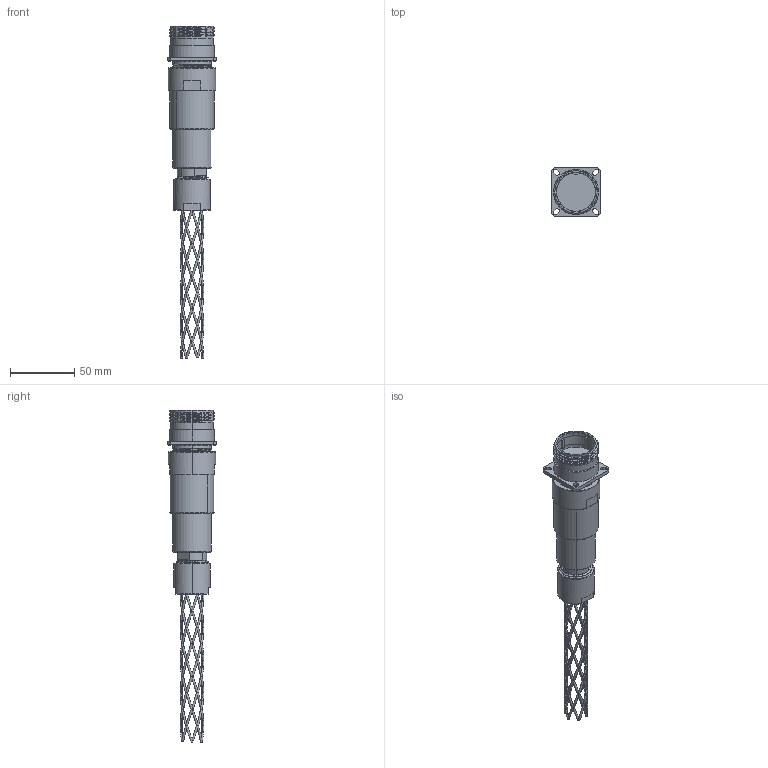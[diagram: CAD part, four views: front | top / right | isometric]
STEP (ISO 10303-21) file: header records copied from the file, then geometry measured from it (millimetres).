
FILE_DESCRIPTION (( 'STEP AP214' ), '1' );
FILE_NAME ('QPLEX3-RFFX-XXXX-GXXX.STEP', '2025-04-07T18:04:46', ( '' ), ( '' ), 'SwSTEP 2.0', 'SolidWorks 2024', '' );
FILE_SCHEMA (( 'AUTOMOTIVE_DESIGN' ));
Length unit declared in the file: inch
Products named in the file (1): QPLEX3-RFFX-XXXX-GXXX
Bounding box: 38.1 x 38.1 x 257.54 mm (x, y, z)
Volume: 108260.1 mm3; surface area: 27418.5 mm2
Topology: 2 solids, 2 shells, 386 faces, 1088 edges, 611 vertices
Faces by surface type: bspline 223, cylinder 74, plane 52, torus 23, cone 14
Entity records: 105740 total; most frequent: CARTESIAN_POINT 98348, ORIENTED_EDGE 2174, EDGE_CURVE 1087, DIRECTION 935, VERTEX_POINT 611, EDGE_LOOP 410, AXIS2_PLACEMENT_3D 390, FACE_OUTER_BOUND 386
